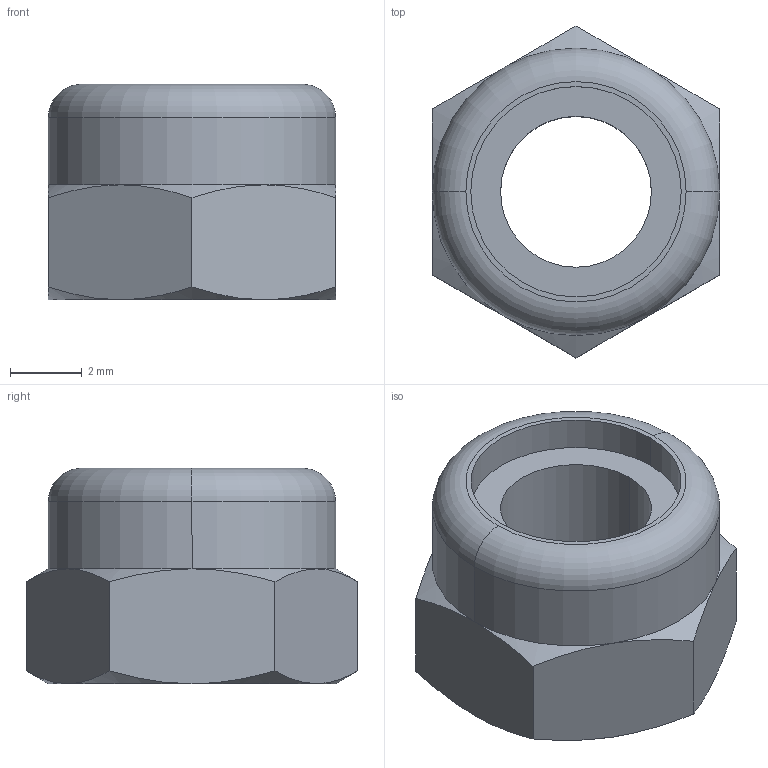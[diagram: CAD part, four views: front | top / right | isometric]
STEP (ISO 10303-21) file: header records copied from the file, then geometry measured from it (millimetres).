
FILE_DESCRIPTION (( 'STEP AP214' ), '1' );
FILE_NAME ('Ãàéêà ñ íåéëîíîâûì êîëüöîì Ì5 DIN985.STEP', '2023-09-28T07:49:28', ( '' ), ( '' ), 'SwSTEP 2.0', 'SolidWorks 2022', '' );
FILE_SCHEMA (( 'AUTOMOTIVE_DESIGN' ));
Length unit declared in the file: millimetre
Products named in the file (1): Гайка с нейлоновым кольцом М5 DIN985
Bounding box: 8 x 9.24 x 6 mm (x, y, z)
Volume: 216.3 mm3; surface area: 308.2 mm2
Topology: 1 solids, 1 shells, 33 faces, 70 edges, 40 vertices
Faces by surface type: cone 14, plane 9, cylinder 8, torus 2
Entity records: 1001 total; most frequent: CARTESIAN_POINT 248, DIRECTION 144, ORIENTED_EDGE 140, EDGE_CURVE 70, AXIS2_PLACEMENT_3D 64, VERTEX_POINT 40, EDGE_LOOP 36, ADVANCED_FACE 33
